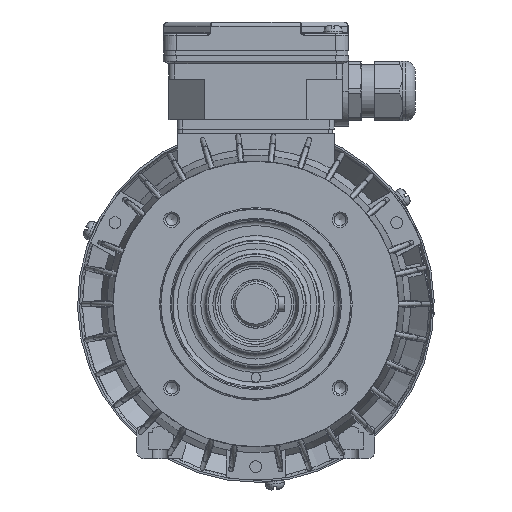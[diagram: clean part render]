
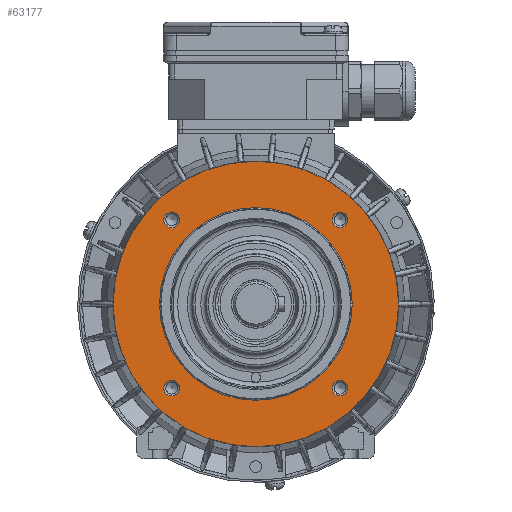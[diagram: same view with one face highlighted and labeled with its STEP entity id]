
A CAD part, left-side view. The second image highlights one B-rep face of the part: STEP entity #63177.
In plain terms, the highlighted planar face has unit normal (-1, 0, 0).
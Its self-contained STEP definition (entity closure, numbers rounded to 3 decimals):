
#8368=PLANE('',#67043);
#19685=ORIENTED_EDGE('',*,*,#29035,.T.);
#19686=ORIENTED_EDGE('',*,*,#29036,.T.);
#19687=ORIENTED_EDGE('',*,*,#29037,.T.);
#19688=ORIENTED_EDGE('',*,*,#29038,.T.);
#19689=ORIENTED_EDGE('',*,*,#29039,.T.);
#19690=ORIENTED_EDGE('',*,*,#28848,.T.);
#28848=EDGE_CURVE('',#34314,#34314,#37280,.T.);
#29035=EDGE_CURVE('',#34430,#34430,#37324,.F.);
#29036=EDGE_CURVE('',#34431,#34431,#37325,.F.);
#29037=EDGE_CURVE('',#34432,#34432,#37326,.F.);
#29038=EDGE_CURVE('',#34433,#34433,#37327,.F.);
#29039=EDGE_CURVE('',#34434,#34434,#37328,.F.);
#34314=VERTEX_POINT('',#99902);
#34430=VERTEX_POINT('',#101905);
#34431=VERTEX_POINT('',#101907);
#34432=VERTEX_POINT('',#101909);
#34433=VERTEX_POINT('',#101911);
#34434=VERTEX_POINT('',#101913);
#37280=CIRCLE('',#66930,60.);
#37324=CIRCLE('',#67044,3.3);
#37325=CIRCLE('',#67045,3.3);
#37326=CIRCLE('',#67046,3.3);
#37327=CIRCLE('',#67047,3.3);
#37328=CIRCLE('',#67048,40.5);
#39835=EDGE_LOOP('',(#19685));
#39836=EDGE_LOOP('',(#19686));
#39837=EDGE_LOOP('',(#19687));
#39838=EDGE_LOOP('',(#19688));
#39839=EDGE_LOOP('',(#19689));
#39840=EDGE_LOOP('',(#19690));
#42890=FACE_BOUND('',#39835,.T.);
#42891=FACE_BOUND('',#39836,.T.);
#42892=FACE_BOUND('',#39837,.T.);
#42893=FACE_BOUND('',#39838,.T.);
#42894=FACE_BOUND('',#39839,.T.);
#42895=FACE_BOUND('',#39840,.T.);
#63177=ADVANCED_FACE('',(#42890,#42891,#42892,#42893,#42894,#42895),#8368,
 .T.);
#66930=AXIS2_PLACEMENT_3D('',#99901,#76551,#76552);
#67043=AXIS2_PLACEMENT_3D('',#101903,#76819,#76820);
#67044=AXIS2_PLACEMENT_3D('',#101904,#76821,#76822);
#67045=AXIS2_PLACEMENT_3D('',#101906,#76823,#76824);
#67046=AXIS2_PLACEMENT_3D('',#101908,#76825,#76826);
#67047=AXIS2_PLACEMENT_3D('',#101910,#76827,#76828);
#67048=AXIS2_PLACEMENT_3D('',#101912,#76829,#76830);
#76551=DIRECTION('',(-1.,0.,0.));
#76552=DIRECTION('',(0.,0.,-1.));
#76819=DIRECTION('',(-1.,0.,0.));
#76820=DIRECTION('',(0.,0.,-1.));
#76821=DIRECTION('',(-1.,0.,0.));
#76822=DIRECTION('',(0.,0.,-1.));
#76823=DIRECTION('',(-1.,0.,0.));
#76824=DIRECTION('',(0.,0.,-1.));
#76825=DIRECTION('',(-1.,0.,0.));
#76826=DIRECTION('',(0.,0.,-1.));
#76827=DIRECTION('',(-1.,0.,0.));
#76828=DIRECTION('',(0.,0.,-1.));
#76829=DIRECTION('',(-1.,0.,0.));
#76830=DIRECTION('',(0.,0.,-1.));
#99901=CARTESIAN_POINT('',(-44.8,0.,0.));
#99902=CARTESIAN_POINT('',(-44.8,0.,-60.));
#101903=CARTESIAN_POINT('',(-44.8,0.,40.));
#101904=CARTESIAN_POINT('',(-44.8,35.355,-35.355));
#101905=CARTESIAN_POINT('',(-44.8,35.355,-38.655));
#101906=CARTESIAN_POINT('',(-44.8,-35.355,-35.355));
#101907=CARTESIAN_POINT('',(-44.8,-35.355,-38.655));
#101908=CARTESIAN_POINT('',(-44.8,-35.355,35.355));
#101909=CARTESIAN_POINT('',(-44.8,-35.355,32.055));
#101910=CARTESIAN_POINT('',(-44.8,35.355,35.355));
#101911=CARTESIAN_POINT('',(-44.8,35.355,32.055));
#101912=CARTESIAN_POINT('',(-44.8,0.,0.));
#101913=CARTESIAN_POINT('',(-44.8,0.,-40.5));
